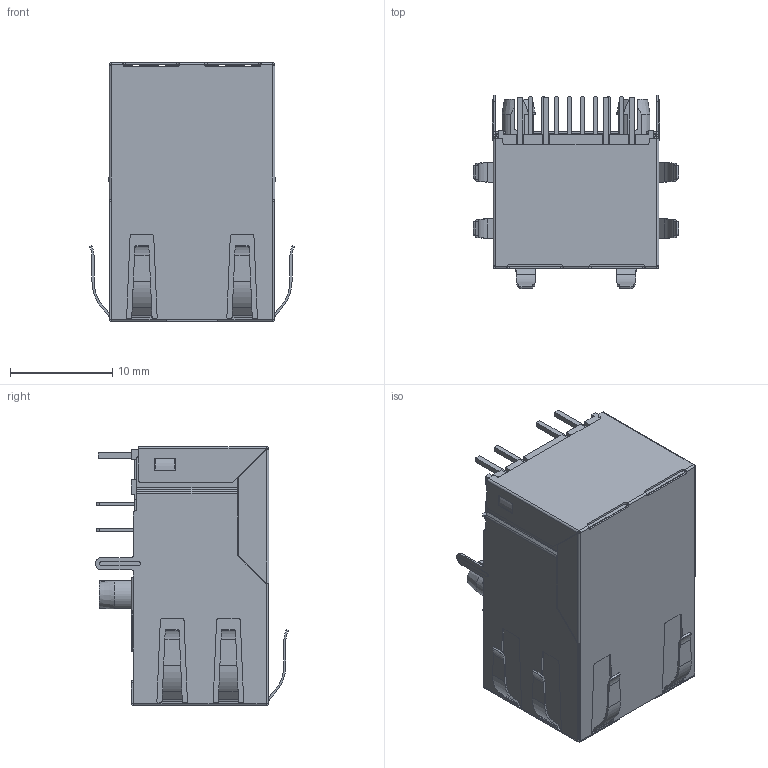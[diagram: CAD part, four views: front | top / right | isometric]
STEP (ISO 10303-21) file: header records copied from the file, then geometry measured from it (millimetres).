
FILE_DESCRIPTION((''),'2;1');
FILE_NAME('DGKYD311B480AF5A4DPN','2023-03-24T14:47:29',('Administrator'),(''),'CREO PARAMETRIC BY PTC INC, 2019010','CREO PARAMETRIC BY PTC INC, 2019010','');
FILE_SCHEMA(('CONFIG_CONTROL_DESIGN'));
Products named in the file (1): DGKYD311B480AF5A4DPN
Bounding box: 20.06 x 18.88 x 25.3 mm (x, y, z)
Volume: 2610.8 mm3; surface area: 7859.9 mm2
Topology: 3 solids, 14 shells, 1988 faces, 5818 edges, 3737 vertices
Faces by surface type: plane 1499, cylinder 453, extrusion 12, torus 8, sphere 8, cone 4, bspline 4
Entity records: 66320 total; most frequent: CARTESIAN_POINT 13136, ORIENTED_EDGE 11608, DIRECTION 10470, EDGE_CURVE 5810, VECTOR 4612, LINE 4600, VERTEX_POINT 3737, AXIS2_PLACEMENT_3D 2929
